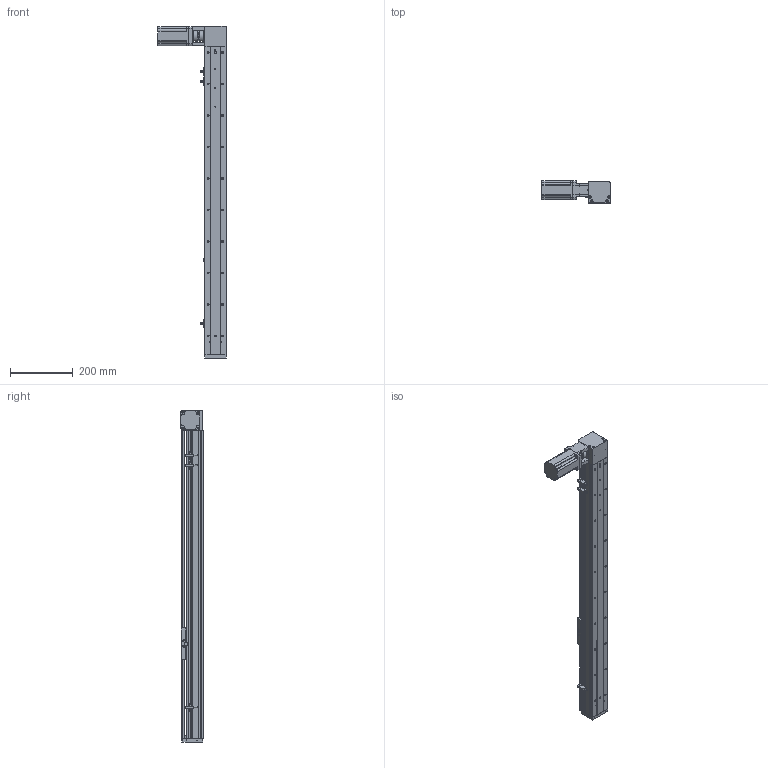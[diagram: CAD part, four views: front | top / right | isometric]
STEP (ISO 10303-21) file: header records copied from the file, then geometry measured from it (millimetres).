
FILE_DESCRIPTION (( 'STEP AP203' ), '1' );
FILE_NAME ('ML68-S800-BL.STEP', '2016-06-01T03:18:16', ( '微软用户' ), ( '微软中国' ), 'SwSTEP 2.0', 'SolidWorks 2014', '' );
FILE_SCHEMA (( 'CONFIG_CONTROL_DESIGN' ));
Length unit declared in the file: millimetre
Products named in the file (12): ML68-S800-BL; ML68傷啣; 換覜ん; 三协电机MH201N2_預設; 联轴器（CS34X32-8X14）_預設; MS68-TS0204鎮湛嘐隅釱_蕼偞; ML68-奻裔^ML68-S800-BL; ML68-BL傷啣; ML68雄赽釱; 60換覜結え; ML68滅鳥啣盓傅輸; ML68-菁釱^ML68-S800-BL
Assembly tree (13 placements, depth 2):
  ML68-S800-BL
    ML68-BL傷啣
    60換覜結え
    ML68-菁釱^ML68-S800-BL
    ML68傷啣
    換覜ん  x3
    三协电机MH201N2_預設
    联轴器（CS34X32-8X14）_預設
    MS68-TS0204鎮湛嘐隅釱_蕼偞
    ML68-奻裔^ML68-S800-BL
    ML68雄赽釱
    ML68滅鳥啣盓傅輸
Bounding box: 216.5 x 70.5 x 1054 mm (x, y, z)
Volume: 1877520.6 mm3; surface area: 692510.8 mm2
Topology: 14 solids, 14 shells, 955 faces, 2593 edges, 1643 vertices
Faces by surface type: cylinder 451, plane 384, cone 100, bspline 20
Entity records: 30961 total; most frequent: CARTESIAN_POINT 6651, DIRECTION 4935, ORIENTED_EDGE 4702, EDGE_CURVE 2351, AXIS2_PLACEMENT_3D 1817, VERTEX_POINT 1531, LINE 1301, VECTOR 1301
